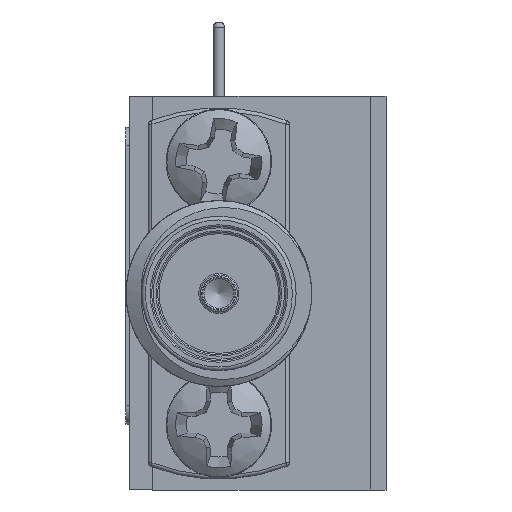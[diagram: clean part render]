
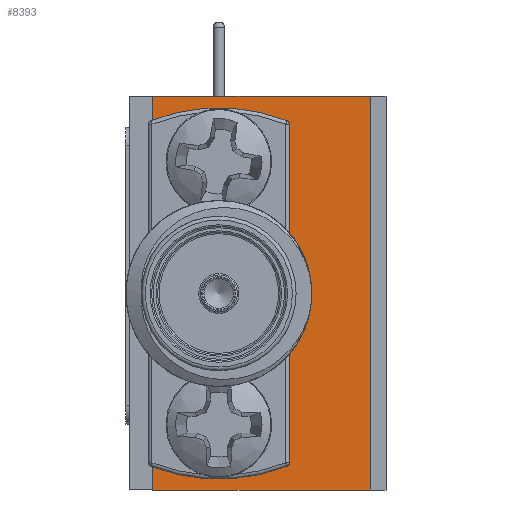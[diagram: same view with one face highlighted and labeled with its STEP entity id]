
A CAD part, left-side view. The second image highlights one B-rep face of the part: STEP entity #8393.
In plain terms, the highlighted planar face has unit normal (-1, 0, 0).
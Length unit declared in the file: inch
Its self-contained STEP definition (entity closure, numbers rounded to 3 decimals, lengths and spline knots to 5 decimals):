
#843 = DIRECTION ( 'NONE',  ( -1., 0., 0. ) ) ;
#1657 = CARTESIAN_POINT ( 'NONE',  ( -0.15315, 0.14801, 0.53516 ) ) ;
#1672 = AXIS2_PLACEMENT_3D ( 'NONE', #35993, #20302, #24882 ) ;
#1679 = CARTESIAN_POINT ( 'NONE',  ( -0.15315, 0.35201, 0.49016 ) ) ;
#1916 = VERTEX_POINT ( 'NONE', #1679 ) ;
#2001 = VECTOR ( 'NONE', #6508, 39.37008 ) ;
#2452 = ORIENTED_EDGE ( 'NONE', *, *, #5417, .T. ) ;
#2784 = VERTEX_POINT ( 'NONE', #42448 ) ;
#3544 = EDGE_CURVE ( 'NONE', #29667, #47221, #24767, .T. ) ;
#5417 = EDGE_CURVE ( 'NONE', #26528, #43229, #38882, .T. ) ;
#5811 = FACE_BOUND ( 'NONE', #27322, .T. ) ;
#6051 = DIRECTION ( 'NONE',  ( -1., 0., 0. ) ) ;
#6508 = DIRECTION ( 'NONE',  ( 0., 0., 1. ) ) ;
#7702 = ORIENTED_EDGE ( 'NONE', *, *, #3544, .F. ) ;
#8393 = ADVANCED_FACE ( 'NONE', ( #5811, #27892, #45963, #42368 ), #24548, .T. ) ;
#8660 = AXIS2_PLACEMENT_3D ( 'NONE', #39220, #6051, #16020 ) ;
#9196 = DIRECTION ( 'NONE',  ( 0., 0., 1. ) ) ;
#10094 = VECTOR ( 'NONE', #43658, 39.37008 ) ;
#11554 = CARTESIAN_POINT ( 'NONE',  ( -0.15315, 0.14801, 0.00516 ) ) ;
#12026 = EDGE_CURVE ( 'NONE', #26528, #29667, #29913, .T. ) ;
#12678 = AXIS2_PLACEMENT_3D ( 'NONE', #24558, #38999, #9196 ) ;
#15121 = CARTESIAN_POINT ( 'NONE',  ( -0.15315, 0.14801, 0.00516 ) ) ;
#15333 = CARTESIAN_POINT ( 'NONE',  ( -0.15315, 0.35201, 0.09316 ) ) ;
#15527 = AXIS2_PLACEMENT_3D ( 'NONE', #15333, #843, #44788 ) ;
#16020 = DIRECTION ( 'NONE',  ( 0., 0., 1. ) ) ;
#18448 = EDGE_LOOP ( 'NONE', ( #32909 ) ) ;
#19269 = DIRECTION ( 'NONE',  ( 0., 1., 0. ) ) ;
#20061 = CARTESIAN_POINT ( 'NONE',  ( -0.15315, 0.14801, 0.00516 ) ) ;
#20302 = DIRECTION ( 'NONE',  ( -1., 0., 0. ) ) ;
#20637 = VECTOR ( 'NONE', #19269, 39.37008 ) ;
#23343 = ORIENTED_EDGE ( 'NONE', *, *, #23922, .F. ) ;
#23922 = EDGE_CURVE ( 'NONE', #1916, #1916, #37268, .T. ) ;
#24548 = PLANE ( 'NONE',  #8660 ) ;
#24558 = CARTESIAN_POINT ( 'NONE',  ( -0.15315, 0.35201, 0.27016 ) ) ;
#24767 = LINE ( 'NONE', #35388, #2001 ) ;
#24882 = DIRECTION ( 'NONE',  ( 0., 0., 1. ) ) ;
#25125 = LINE ( 'NONE', #40812, #10094 ) ;
#25243 = EDGE_CURVE ( 'NONE', #34382, #34382, #45867, .T. ) ;
#26528 = VERTEX_POINT ( 'NONE', #11554 ) ;
#27062 = ORIENTED_EDGE ( 'NONE', *, *, #25243, .F. ) ;
#27322 = EDGE_LOOP ( 'NONE', ( #27062 ) ) ;
#27892 = FACE_BOUND ( 'NONE', #18448, .T. ) ;
#29667 = VERTEX_POINT ( 'NONE', #42400 ) ;
#29888 = EDGE_LOOP ( 'NONE', ( #7702, #35383, #2452, #47519 ) ) ;
#29913 = LINE ( 'NONE', #15121, #20637 ) ;
#32909 = ORIENTED_EDGE ( 'NONE', *, *, #41074, .F. ) ;
#33259 = EDGE_CURVE ( 'NONE', #43229, #47221, #25125, .T. ) ;
#34382 = VERTEX_POINT ( 'NONE', #45662 ) ;
#35039 = DIRECTION ( 'NONE',  ( 0., 0., 1. ) ) ;
#35383 = ORIENTED_EDGE ( 'NONE', *, *, #12026, .F. ) ;
#35388 = CARTESIAN_POINT ( 'NONE',  ( -0.15315, 0.44101, 0.00516 ) ) ;
#35636 = CIRCLE ( 'NONE', #15527, 0.043 ) ;
#35670 = VECTOR ( 'NONE', #35039, 39.37008 ) ;
#35993 = CARTESIAN_POINT ( 'NONE',  ( -0.15315, 0.35201, 0.44716 ) ) ;
#37268 = CIRCLE ( 'NONE', #1672, 0.043 ) ;
#38882 = LINE ( 'NONE', #20061, #35670 ) ;
#38999 = DIRECTION ( 'NONE',  ( -1., 0., 0. ) ) ;
#39220 = CARTESIAN_POINT ( 'NONE',  ( -0.15315, 0.14801, 0.00516 ) ) ;
#40812 = CARTESIAN_POINT ( 'NONE',  ( -0.15315, 0.14801, 0.53516 ) ) ;
#41074 = EDGE_CURVE ( 'NONE', #2784, #2784, #35636, .T. ) ;
#41163 = EDGE_LOOP ( 'NONE', ( #23343 ) ) ;
#42368 = FACE_OUTER_BOUND ( 'NONE', #29888, .T. ) ;
#42400 = CARTESIAN_POINT ( 'NONE',  ( -0.15315, 0.44101, 0.00516 ) ) ;
#42448 = CARTESIAN_POINT ( 'NONE',  ( -0.15315, 0.35201, 0.13616 ) ) ;
#43229 = VERTEX_POINT ( 'NONE', #1657 ) ;
#43658 = DIRECTION ( 'NONE',  ( 0., 1., 0. ) ) ;
#44788 = DIRECTION ( 'NONE',  ( 0., 0., 1. ) ) ;
#45242 = CARTESIAN_POINT ( 'NONE',  ( -0.15315, 0.44101, 0.53516 ) ) ;
#45662 = CARTESIAN_POINT ( 'NONE',  ( -0.15315, 0.35201, 0.34016 ) ) ;
#45867 = CIRCLE ( 'NONE', #12678, 0.07 ) ;
#45963 = FACE_BOUND ( 'NONE', #41163, .T. ) ;
#47221 = VERTEX_POINT ( 'NONE', #45242 ) ;
#47519 = ORIENTED_EDGE ( 'NONE', *, *, #33259, .T. ) ;
